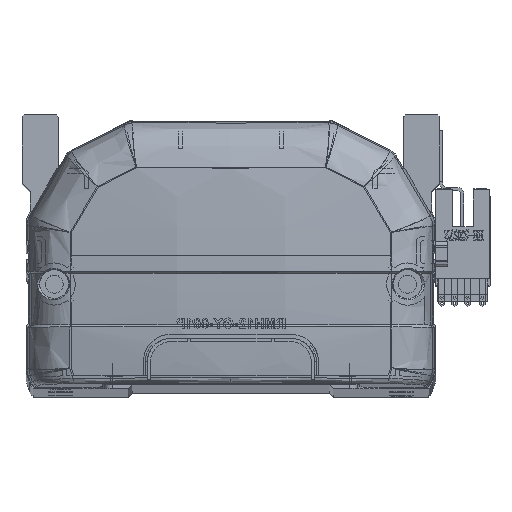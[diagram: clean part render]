
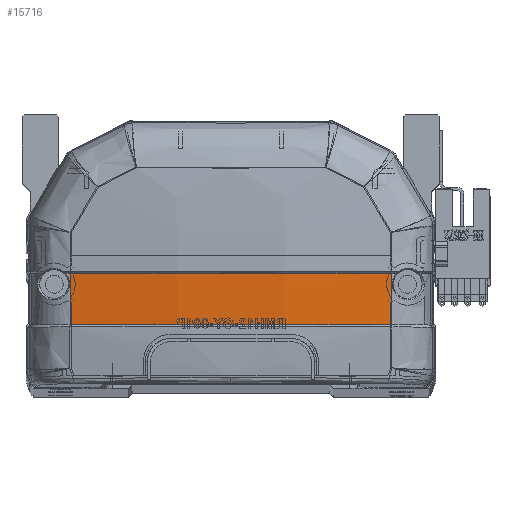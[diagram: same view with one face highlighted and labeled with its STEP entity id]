
A CAD part, top view. The second image highlights one B-rep face of the part: STEP entity #15716.
In plain terms, the highlighted free-form (B-spline) face has degree [3, 3] with [4, 4] control points.
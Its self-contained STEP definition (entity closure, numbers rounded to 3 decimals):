
#36 = EDGE_CURVE ( 'NONE', #57246, #8811, #59067, .T. ) ;
#630 = CARTESIAN_POINT ( 'NONE',  ( -23.389, 15.83, -7.947 ) ) ;
#2608 = CARTESIAN_POINT ( 'NONE',  ( 13.598, 15.499, -10.032 ) ) ;
#4030 = CARTESIAN_POINT ( 'NONE',  ( -39.985, 15.83, -5.879 ) ) ;
#4572 = CARTESIAN_POINT ( 'NONE',  ( 39.963, 28.706, -6.372 ) ) ;
#4641 = CARTESIAN_POINT ( 'NONE',  ( 26.749, 28.706, -8.432 ) ) ;
#5510 = CARTESIAN_POINT ( 'NONE',  ( -33.365, 15.83, -6.848 ) ) ;
#5949 = CARTESIAN_POINT ( 'NONE',  ( 26.761, 15.83, -7.945 ) ) ;
#7929 = CARTESIAN_POINT ( 'NONE',  ( -40.461, 28.832, -6.296 ) ) ;
#8324 = ORIENTED_EDGE ( 'NONE', *, *, #18832, .T. ) ;
#8811 = VERTEX_POINT ( 'NONE', #47941 ) ;
#9084 = FACE_OUTER_BOUND ( 'NONE', #17675, .T. ) ;
#10147 = CARTESIAN_POINT ( 'NONE',  ( -39.963, 28.706, -6.372 ) ) ;
#11039 = CARTESIAN_POINT ( 'NONE',  ( -6.692, 15.83, -8.984 ) ) ;
#12783 = CARTESIAN_POINT ( 'NONE',  ( -40.461, 24.47, -6.231 ) ) ;
#12989 = CARTESIAN_POINT ( 'NONE',  ( -40.461, 20.111, -6.066 ) ) ;
#13216 =( BOUNDED_SURFACE ( )  B_SPLINE_SURFACE ( 3, 3, ( 
 ( #51339, #22130, #31646, #36852 ),
 ( #2608, #27411, #31845, #51147 ),
 ( #36639, #41441, #27214, #60790 ),
 ( #32036, #12989, #12783, #7929 ) ),
 .UNSPECIFIED., .F., .F., .F. ) 
 B_SPLINE_SURFACE_WITH_KNOTS ( ( 4, 4 ),
 ( 4, 4 ),
 ( 0., 1. ),
 ( 0., 1. ),
 .UNSPECIFIED. ) 
 GEOMETRIC_REPRESENTATION_ITEM ( )  RATIONAL_B_SPLINE_SURFACE ( (
 ( 1., 1., 1., 1.),
 ( 0.992, 0.992, 0.992, 0.992),
 ( 0.992, 0.992, 0.992, 0.992),
 ( 1., 1., 1., 1.) ) ) 
 REPRESENTATION_ITEM ( '' )  SURFACE ( )  );
#15483 = CARTESIAN_POINT ( 'NONE',  ( -13.384, 15.83, -8.724 ) ) ;
#15716 = ADVANCED_FACE ( 'NONE', ( #9084 ), #13216, .F. ) ;
#17675 = EDGE_LOOP ( 'NONE', ( #46757, #40153, #8324, #56650 ) ) ;
#18832 = EDGE_CURVE ( 'NONE', #57246, #35982, #35024, .T. ) ;
#22130 = CARTESIAN_POINT ( 'NONE',  ( 40.461, 20.111, -6.066 ) ) ;
#24327 = EDGE_CURVE ( 'NONE', #56377, #35982, #47035, .T. ) ;
#24360 = CARTESIAN_POINT ( 'NONE',  ( 13.375, 28.707, -9.468 ) ) ;
#25456 = CARTESIAN_POINT ( 'NONE',  ( -36.679, 15.83, -6.395 ) ) ;
#27214 = CARTESIAN_POINT ( 'NONE',  ( -13.598, 24.342, -10.47 ) ) ;
#27411 = CARTESIAN_POINT ( 'NONE',  ( 13.598, 19.918, -10.302 ) ) ;
#31646 = CARTESIAN_POINT ( 'NONE',  ( 40.461, 24.47, -6.231 ) ) ;
#31845 = CARTESIAN_POINT ( 'NONE',  ( 13.598, 24.342, -10.47 ) ) ;
#32036 = CARTESIAN_POINT ( 'NONE',  ( -40.461, 15.757, -5.8 ) ) ;
#32452 = CARTESIAN_POINT ( 'NONE',  ( -39.985, 15.83, -5.879 ) ) ;
#33569 = CARTESIAN_POINT ( 'NONE',  ( 39.966, 24.413, -6.306 ) ) ;
#34926 = CARTESIAN_POINT ( 'NONE',  ( 13.38, 15.83, -8.984 ) ) ;
#35024 = B_SPLINE_CURVE_WITH_KNOTS ( 'NONE', 3,
 ( #37241, #61389, #52153, #32452 ),
 .UNSPECIFIED., .F., .F.,
 ( 4, 4 ),
 ( 0., 1. ),
 .UNSPECIFIED. ) ;
#35982 = VERTEX_POINT ( 'NONE', #4030 ) ;
#36639 = CARTESIAN_POINT ( 'NONE',  ( -13.598, 15.499, -10.032 ) ) ;
#36852 = CARTESIAN_POINT ( 'NONE',  ( 40.461, 28.832, -6.296 ) ) ;
#37241 = CARTESIAN_POINT ( 'NONE',  ( -39.963, 28.706, -6.372 ) ) ;
#38449 = CARTESIAN_POINT ( 'NONE',  ( 39.963, 28.706, -6.372 ) ) ;
#40153 = ORIENTED_EDGE ( 'NONE', *, *, #36, .F. ) ;
#41441 = CARTESIAN_POINT ( 'NONE',  ( -13.598, 19.918, -10.302 ) ) ;
#42762 = CARTESIAN_POINT ( 'NONE',  ( -39.963, 28.706, -6.372 ) ) ;
#42774 = CARTESIAN_POINT ( 'NONE',  ( 39.985, 15.83, -5.879 ) ) ;
#42899 = EDGE_CURVE ( 'NONE', #56377, #8811, #44895, .T. ) ;
#43433 = CARTESIAN_POINT ( 'NONE',  ( -26.748, 28.706, -8.432 ) ) ;
#44430 = CARTESIAN_POINT ( 'NONE',  ( 39.973, 20.12, -6.142 ) ) ;
#44514 = CARTESIAN_POINT ( 'NONE',  ( -26.721, 15.83, -7.624 ) ) ;
#44895 = B_SPLINE_CURVE_WITH_KNOTS ( 'NONE', 3,
 ( #42774, #44430, #33569, #4572 ),
 .UNSPECIFIED., .F., .F.,
 ( 4, 4 ),
 ( 0., 1. ),
 .UNSPECIFIED. ) ;
#46757 = ORIENTED_EDGE ( 'NONE', *, *, #42899, .T. ) ;
#47035 = B_SPLINE_CURVE_WITH_KNOTS ( 'NONE', 3,
 ( #53790, #5949, #34926, #11039, #15483, #630, #44514, #5510, #25456, #59042 ),
 .UNSPECIFIED., .F., .F.,
 ( 4, 2, 2, 2, 4 ),
 ( 0., 0.04, 0.06, 0.07, 0.08 ),
 .UNSPECIFIED. ) ;
#47198 = CARTESIAN_POINT ( 'NONE',  ( 39.985, 15.83, -5.879 ) ) ;
#47941 = CARTESIAN_POINT ( 'NONE',  ( 39.963, 28.706, -6.372 ) ) ;
#51147 = CARTESIAN_POINT ( 'NONE',  ( 13.598, 28.769, -10.535 ) ) ;
#51339 = CARTESIAN_POINT ( 'NONE',  ( 40.461, 15.757, -5.8 ) ) ;
#52153 = CARTESIAN_POINT ( 'NONE',  ( -39.973, 20.118, -6.142 ) ) ;
#53129 = CARTESIAN_POINT ( 'NONE',  ( -13.373, 28.707, -9.468 ) ) ;
#53790 = CARTESIAN_POINT ( 'NONE',  ( 39.985, 15.83, -5.879 ) ) ;
#56377 = VERTEX_POINT ( 'NONE', #47198 ) ;
#56650 = ORIENTED_EDGE ( 'NONE', *, *, #24327, .F. ) ;
#57246 = VERTEX_POINT ( 'NONE', #42762 ) ;
#59042 = CARTESIAN_POINT ( 'NONE',  ( -39.985, 15.83, -5.879 ) ) ;
#59067 = B_SPLINE_CURVE_WITH_KNOTS ( 'NONE', 3,
 ( #10147, #43433, #53129, #24360, #4641, #38449 ),
 .UNSPECIFIED., .F., .F.,
 ( 4, 2, 4 ),
 ( 0., 0.5, 1. ),
 .UNSPECIFIED. ) ;
#60790 = CARTESIAN_POINT ( 'NONE',  ( -13.598, 28.769, -10.535 ) ) ;
#61389 = CARTESIAN_POINT ( 'NONE',  ( -39.966, 24.412, -6.306 ) ) ;
